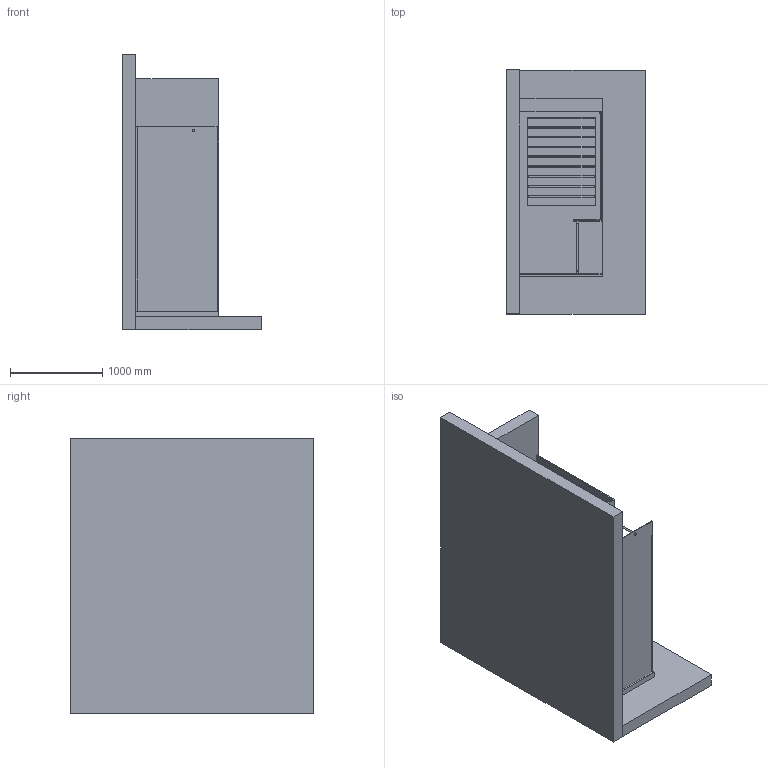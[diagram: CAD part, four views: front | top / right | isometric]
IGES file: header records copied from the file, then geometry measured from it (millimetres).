
Global section: file name: \\Archi-NAS\Comune\X GIOVANNI\SCHEDE PRODOTTO\BOX DOCCIA\DISEGNI 3D\ST 400\MOMA DESIGN_BOX DOCCIA_ST402.igs; native system: Rhinoceros ( Jan 17 2018 ); preprocessor: Trout Lake IGES 012 Jan 17 2018; date: 230627.093140; units: millimetre
Bounding box: 1502.28 x 2641.25 x 2983.36 mm (x, y, z)
Surface area: 46063415.7 mm2 (no closed solid volume)
Topology: 0 solids, 0 shells, 329 faces, 1529 edges, 1535 vertices
Faces by surface type: bspline 329
